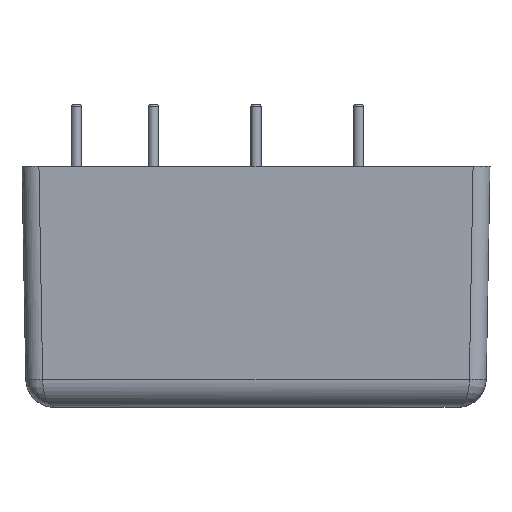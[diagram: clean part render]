
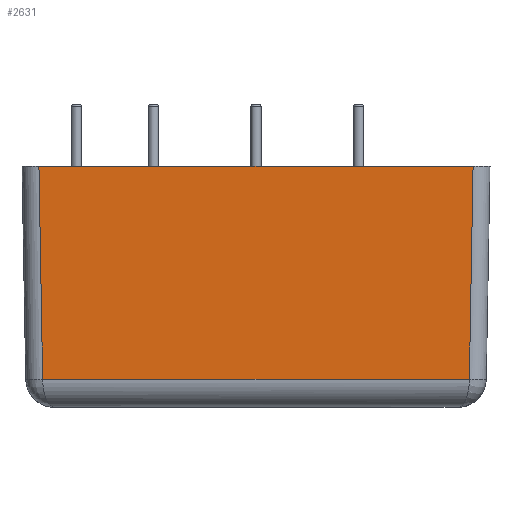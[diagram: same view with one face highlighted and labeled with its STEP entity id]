
A CAD part, left-side view. The second image highlights one B-rep face of the part: STEP entity #2631.
In plain terms, the highlighted planar face has unit normal (-1, 0, -0.018).
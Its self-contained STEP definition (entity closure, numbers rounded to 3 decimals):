
#191=CARTESIAN_POINT('',(0.,43.95,0.0));
#192=VERTEX_POINT('',#191);
#202=CARTESIAN_POINT('',(0.,1.65,0.0));
#203=VERTEX_POINT('',#202);
#204=CARTESIAN_POINT('',(0.,43.95,0.0));
#205=DIRECTION('',(0.0,-1.0,0.0));
#206=VECTOR('',#205,42.301);
#207=LINE('',#204,#206);
#208=EDGE_CURVE('',#192,#203,#207,.T.);
#1019=CARTESIAN_POINT('',(0.362,2.012,-20.749));
#1020=VERTEX_POINT('',#1019);
#1306=CARTESIAN_POINT('',(0.362,43.588,-20.749));
#1307=VERTEX_POINT('',#1306);
#1364=CARTESIAN_POINT('',(0.362,2.012,-20.749));
#1365=DIRECTION('',(0.0,1.0,0.0));
#1366=VECTOR('',#1365,41.576);
#1367=LINE('',#1364,#1366);
#1368=EDGE_CURVE('',#1020,#1307,#1367,.T.);
#1498=CARTESIAN_POINT('',(0.362,43.588,-20.749));
#1499=DIRECTION('',(-0.017,0.017,1.));
#1500=VECTOR('',#1499,20.755);
#1501=LINE('',#1498,#1500);
#1502=EDGE_CURVE('',#1307,#192,#1501,.T.);
#1808=CARTESIAN_POINT('',(0.,1.65,0.0));
#1809=DIRECTION('',(0.017,0.017,-1.));
#1810=VECTOR('',#1809,20.755);
#1811=LINE('',#1808,#1810);
#1812=EDGE_CURVE('',#203,#1020,#1811,.T.);
#2620=CARTESIAN_POINT('',(0.,45.6,0.0));
#2621=DIRECTION('',(-1.,0.,-0.017));
#2622=DIRECTION('',(0.0,1.0,0.0));
#2623=AXIS2_PLACEMENT_3D('',#2620,#2621,#2622);
#2624=PLANE('',#2623);
#2625=ORIENTED_EDGE('',*,*,#1368,.F.);
#2626=ORIENTED_EDGE('',*,*,#1812,.F.);
#2627=ORIENTED_EDGE('',*,*,#208,.F.);
#2628=ORIENTED_EDGE('',*,*,#1502,.F.);
#2629=EDGE_LOOP('',(#2625,#2626,#2627,#2628));
#2630=FACE_OUTER_BOUND('',#2629,.T.);
#2631=ADVANCED_FACE('',(#2630),#2624,.T.);
